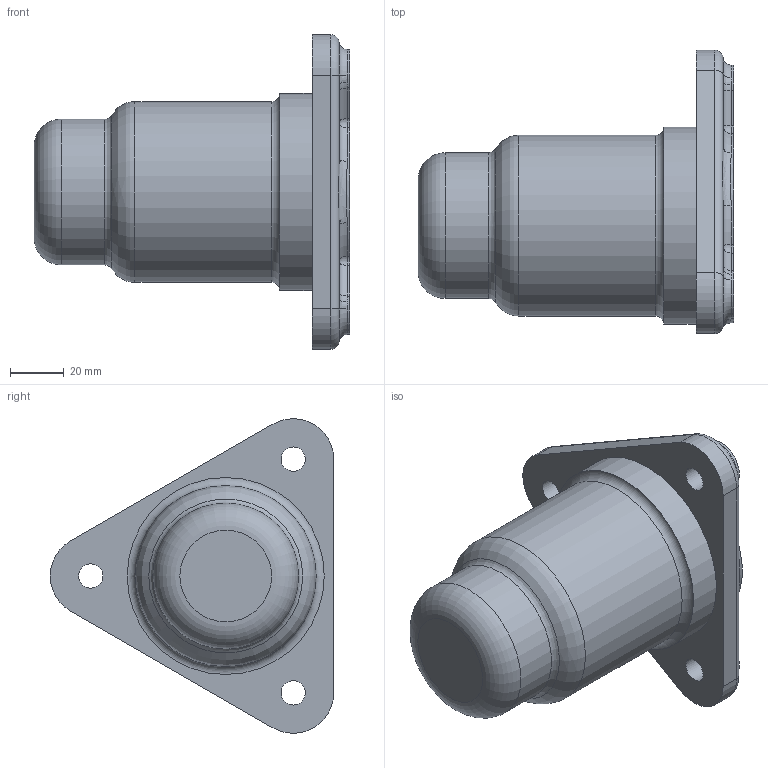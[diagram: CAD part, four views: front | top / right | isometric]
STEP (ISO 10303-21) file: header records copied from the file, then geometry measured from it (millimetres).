
FILE_DESCRIPTION(/* description */ (''),/* implementation_level */ '2;1');
FILE_NAME(/* name */ 'C:\Users\Class 003\Desktop\641003E1002\641003E1002-하우징.stp',/* time_stamp */ '2024-10-19T11:38:42+09:00',/* author */ ('Class 003'),/* organization */ (''),/* preprocessor_version */ 'ST-DEVELOPER v20',/* originating_system */ 'Autodesk Inventor 2022',/* authorisation */ '');
FILE_SCHEMA (('AUTOMOTIVE_DESIGN { 1 0 10303 214 3 1 1 }'));
Length unit declared in the file: millimetre
Products named in the file (1): 하우징
Bounding box: 117 x 105 x 116.6 mm (x, y, z)
Volume: 208556.3 mm3; surface area: 57914.4 mm2
Topology: 1 solids, 1 shells, 111 faces, 253 edges, 151 vertices
Faces by surface type: cylinder 40, torus 27, plane 24, bspline 9, sphere 6, cone 5
Full cylindrical faces by diameter (mm): 3.242 x4, 9 x3, 27.961 x1, 35 x1, 41.996 x1, 47 x2, 54 x1, 59.239 x1, 67 x1, 73 x1
Entity records: 3399 total; most frequent: CARTESIAN_POINT 800, DIRECTION 593, ORIENTED_EDGE 498, AXIS2_PLACEMENT_3D 259, EDGE_CURVE 249, CIRCLE 156, VERTEX_POINT 151, EDGE_LOOP 128
